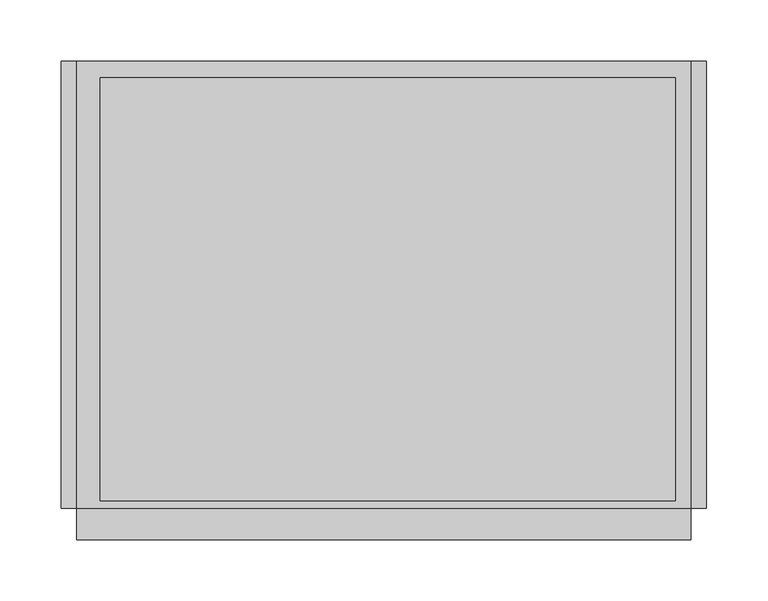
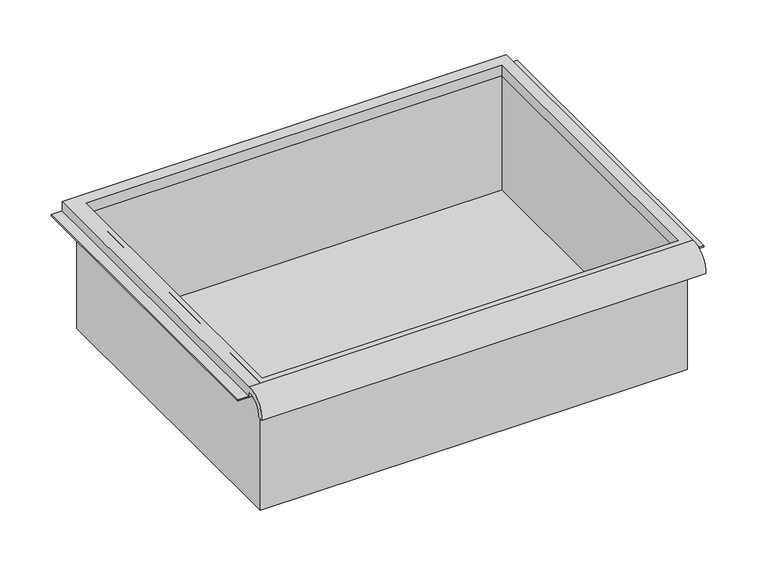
"""IFC4 building model written with IfcOpenShell, lengths in millimetres: furniture geometry."""

from ifc_helpers import new_model, si_unit, frame, origin, place, context, project, spatial, polyline, circle_curve, faceted_brep, source, transform, mapped, element, save
from ifc_brep_helpers import plane_surface, cylinder_surface, revolved_surface, advanced_brep


def furniture_8ac6b47e(model_context):
    return source(origin(), model_context, "Body", "SolidModel", [
        advanced_brep(
        [(263.7474999, -195.297482, 1770.8510272), (263.7474999, -188.9125, 1770.8510272), (263.7474999, -169.8625, 1789.1125004), (263.7474999, -169.8625, 1782.7625), (263.7474999, 195.2625, 1782.7625), (263.7474999, 195.2625, 1795.4625004), (263.7474999, -169.8625, 1795.4625004), (-237.9025001, -195.297482, 1770.8510272), (-237.9025001, -169.8625, 1795.4625004), (-237.9025001, 195.2625, 1795.4625004), (-237.9025001, 195.2625, 1782.7625), (-237.9025001, -169.8625, 1782.7625), (-237.9025001, -169.8625, 1789.1125004), (-237.9025001, -188.9125, 1770.8510272), (251.0474878, 181.9275, 1782.7625), (-218.8095642, 181.9275, 1782.7625), (-218.8095642, -163.5125, 1782.7625), (251.0474878, -163.5125, 1782.7625), (-218.8095642, 181.9275, 1795.4625004), (251.0474878, 181.9275, 1795.4625004), (251.0474878, -163.5125, 1795.4625004), (-218.8095642, -163.5125, 1795.4625004)],
        [
            (0, 1),
            (1, 2, circle_curve(frame((263.7474999, -172.3404634, 1772.6304376), z_axis=(-1.0, 0.0, 0.0), x_axis=(0.0, 1.0, 0.0)), 16.6672942)),
            (2, 3),
            (3, 4),
            (4, 5),
            (5, 6),
            (6, 0, circle_curve(frame((263.7474999, -172.4601678, 1772.6983276), z_axis=(1.0, 0.0, 0.0), x_axis=(0.0, 1.0, 0.0)), 22.9119061)),
            (7, 8, circle_curve(frame((-237.9025001, -172.4601678, 1772.6983276), z_axis=(-1.0, 0.0, 0.0), x_axis=(0.0, 1.0, 0.0)), 22.9119061)),
            (8, 9),
            (9, 10),
            (10, 11),
            (11, 12),
            (12, 13, circle_curve(frame((-237.9025001, -172.3404634, 1772.6304376), z_axis=(1.0, 0.0, 0.0), x_axis=(0.0, 1.0, 0.0)), 16.6672942)),
            (13, 7),
            (0, 7),
            (13, 1),
            (12, 2),
            (11, 3),
            (10, 4),
            (14, 15),
            (15, 16),
            (16, 17),
            (17, 14),
            (9, 5),
            (8, 6),
            (18, 19),
            (19, 20),
            (20, 21),
            (21, 18),
            (14, 19),
            (18, 15),
            (21, 16),
            (20, 17),
        ],
        [
            plane_surface(frame((263.7474999, -195.297482, 1770.8510272), z_axis=(1.0, 0.0, 0.0), x_axis=(0.0, 1.0, 0.0))),
            plane_surface(frame((-237.9025001, -195.297482, 1770.8510272), z_axis=(-1.0, 0.0, 0.0), x_axis=(0.0, -1.0, 0.0))),
            plane_surface(frame((263.7474999, -195.297482, 1770.8510272), z_axis=(0.0, 0.0, -1.0), x_axis=(-1.0, 0.0, 0.0))),
            revolved_surface(polyline([(-237.9025001, -155.67316920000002, 1772.6304376), (263.7474999, -155.67316920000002, 1772.6304376)]), (-237.9025001, -172.3404634, 1772.6304376), (-1.0, 0.0, 0.0)),
            plane_surface(frame((263.7474999, -169.8625, 1789.1125004), z_axis=(0.0, -1.0, 0.0), x_axis=(-1.0, 0.0, 0.0))),
            plane_surface(frame((263.7474999, -169.8625, 1782.7625), z_axis=(0.0, 0.0, -1.0), x_axis=(-1.0, 0.0, 0.0))),
            plane_surface(frame((263.7474999, 195.2625, 1782.7625), z_axis=(0.0, 1.0, 0.0), x_axis=(-1.0, 0.0, 0.0))),
            plane_surface(frame((263.7474999, 195.2625, 1795.4625004), z_axis=(0.0, 0.0, 1.0), x_axis=(-1.0, 0.0, 0.0))),
            cylinder_surface(frame((-237.9025001, -172.4601678, 1772.6983276), z_axis=(1.0, 0.0, 0.0), x_axis=(0.0, 1.0, 0.0)), 22.9119061),
            plane_surface(frame((251.0474878, 181.9275, 1795.4625004), z_axis=(0.0, -1.0, 0.0), x_axis=(0.0, 0.0, -1.0))),
            plane_surface(frame((-218.8095642, 181.9275, 1795.4625004), z_axis=(1.0, 0.0, 0.0), x_axis=(0.0, 0.0, -1.0))),
            plane_surface(frame((-218.8095642, -163.5125, 1795.4625004), z_axis=(0.0, 1.0, 0.0), x_axis=(0.0, 0.0, -1.0))),
            plane_surface(frame((251.0474878, -163.5125, 1795.4625004), z_axis=(-1.0, 0.0, 0.0), x_axis=(0.0, 0.0, -1.0))),
        ],
        [
            (0, [[1, 2, 3, 4, 5, 6, 7]]),
            (1, [[8, 9, 10, 11, 12, 13, 14]]),
            (2, [[-1, 15, -14, 16]]),
            (3, [[-2, -16, -13, 17]]),
            (4, [[-3, -17, -12, 18]]),
            (5, [[-4, -18, -11, 19], [20, 21, 22, 23]]),
            (6, [[-5, -19, -10, 24]]),
            (7, [[-6, -24, -9, 25], [26, 27, 28, 29]]),
            (8, [[-7, -25, -8, -15]]),
            (9, [[30, -26, 31, -20]]),
            (10, [[-31, -29, 32, -21]]),
            (11, [[-32, -28, 33, -22]]),
            (12, [[-30, -23, -33, -27]]),
        ],
    ),
        faceted_brep([(-225.2025001, -169.8625, 1643.0625004), (257.3974878, -169.8625, 1643.0625004), (257.3974878, -169.8625, 1795.4625004), (-225.2025001, -169.8625, 1795.4625004), (-225.2025001, 188.9125, 1643.0625004), (-225.2025001, 188.9125, 1795.4625004), (257.3974878, 188.9125, 1795.4625004), (257.3974878, 188.9125, 1643.0625004), (-218.8095642, 181.9275, 1795.4625004), (251.0474878, 181.9275, 1795.4625004), (251.0474878, -163.5125, 1795.4625004), (-218.8095642, -163.5125, 1795.4625004), (251.0474878, 181.9275, 1646.2375004), (-218.8095642, 181.9275, 1646.2375004), (-218.8095642, -163.5125, 1646.2375004), (251.0474878, -163.5125, 1646.2375004)], [[[0, 1, 2, 3]], [[4, 5, 6, 7]], [[1, 0, 4, 7]], [[2, 1, 7, 6]], [[3, 2, 6, 5], [8, 9, 10, 11]], [[0, 3, 5, 4]], [[12, 13, 14, 15]], [[13, 12, 9, 8]], [[14, 13, 8, 11]], [[15, 14, 11, 10]], [[12, 15, 10, 9]]]),
        faceted_brep([(-250.6025001, 195.2625, 1782.7625), (-250.6025001, 195.2625, 1784.35), (-231.5525001, 195.2625, 1784.35), (-231.5525001, 195.2625, 1782.7625), (-250.6025001, -169.8625, 1782.7625), (-231.5525001, -169.8625, 1782.7625), (-231.5525001, -169.8625, 1784.35), (-250.6025001, -169.8625, 1784.35)], [[[0, 1, 2, 3]], [[4, 5, 6, 7]], [[1, 0, 4, 7]], [[2, 1, 7, 6]], [[3, 2, 6, 5]], [[0, 3, 5, 4]]]),
        faceted_brep([(276.4474999, 195.2625, 1782.7625), (263.7474999, 195.2625, 1782.7625), (263.7474999, 195.2625, 1784.35), (276.4474999, 195.2625, 1784.35), (276.4474999, -169.8625, 1782.7625), (276.4474999, -169.8625, 1784.35), (263.7474999, -169.8625, 1784.35), (263.7474999, -169.8625, 1782.7625)], [[[0, 1, 2, 3]], [[4, 5, 6, 7]], [[1, 0, 4, 7]], [[2, 1, 7, 6]], [[3, 2, 6, 5]], [[0, 3, 5, 4]]]),
    ])


if __name__ == "__main__":
    model = new_model("IFC4")
    model_context = context("Model", 3, world=origin())
    ifc_project = project(units=[si_unit("LENGTHUNIT", "METRE", prefix="MILLI")], contexts=[model_context])
    site = spatial("IfcSite", under=ifc_project)
    building = spatial("IfcBuilding", under=site)
    placement = place(None, origin())
    furniture_shape = furniture_8ac6b47e(model_context)
    element("IfcFurniture", 1, ObjectType="HermanMiller_Carts_CT501_Drawer : 6\"H x 15\"D x 20\"W", at=placement, inside=building, context=model_context, shape_type="MappedRepresentation", body=[
        mapped(furniture_shape, transform((0.0, 0.0, 0.0), x_axis=(1.0, 0.0, 0.0), y_axis=(0.0, 1.0, 0.0), z_axis=(0.0, 0.0, 1.0))),
    ])
    save(model, "model.ifc")
